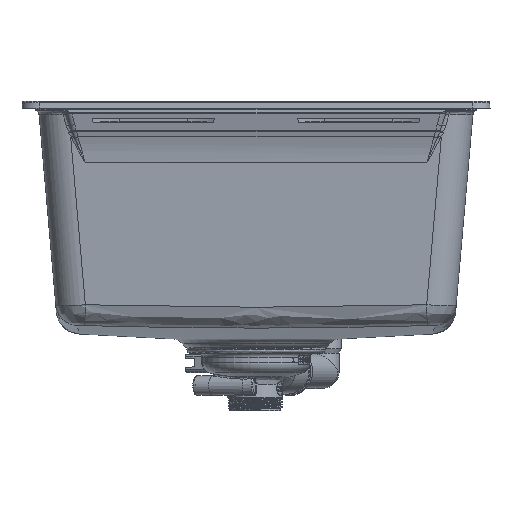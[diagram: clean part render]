
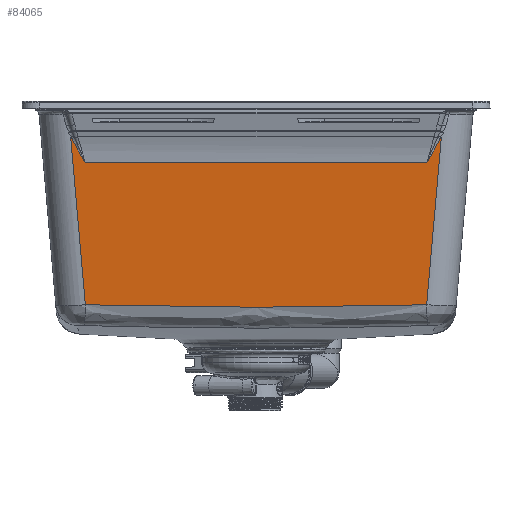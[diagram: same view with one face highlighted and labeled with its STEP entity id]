
A CAD part, left-side view. The second image highlights one B-rep face of the part: STEP entity #84065.
In plain terms, the highlighted planar face has unit normal (-0.996, 0, -0.087).
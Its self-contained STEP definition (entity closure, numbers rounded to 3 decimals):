
#1989=ELLIPSE('',#89532,41.287,9.);
#1990=ELLIPSE('',#89542,41.287,9.);
#2263=B_SPLINE_CURVE_WITH_KNOTS('',3,(#117610,#117611,#117612,#117613,#117614,
#117615),.UNSPECIFIED.,.F.,.F.,(4,2,4),(-2.388,-2.383,
0.),.UNSPECIFIED.);
#2277=B_SPLINE_CURVE_WITH_KNOTS('',3,(#117947,#117948,#117949,#117950,#117951,
#117952),.UNSPECIFIED.,.F.,.F.,(4,2,4),(-2.383,0.,0.004),
 .UNSPECIFIED.);
#2292=B_SPLINE_CURVE_WITH_KNOTS('',3,(#118635,#118636,#118637,#118638,#118639,
#118640),.UNSPECIFIED.,.F.,.F.,(4,1,1,4),(0.,12.818,21.363,
29.908),.UNSPECIFIED.);
#5237=PLANE('',#89608);
#7961=FACE_OUTER_BOUND('',#12873,.T.);
#12873=EDGE_LOOP('',(#57867,#57868,#57869,#57870,#57871,#57872,#57873,#57874));
#18072=LINE('',#118080,#25703);
#18088=LINE('',#118633,#25719);
#18089=LINE('',#118641,#25720);
#25703=VECTOR('',#96459,10.);
#25719=VECTOR('',#96569,10.);
#25720=VECTOR('',#96570,10.);
#35888=VERTEX_POINT('',#117600);
#35890=VERTEX_POINT('',#117603);
#35891=VERTEX_POINT('',#117632);
#35905=VERTEX_POINT('',#117915);
#35906=VERTEX_POINT('',#117917);
#35908=VERTEX_POINT('',#117946);
#35941=VERTEX_POINT('',#118632);
#35942=VERTEX_POINT('',#118634);
#44405=EDGE_CURVE('',#35890,#35888,#2263,.T.);
#44408=EDGE_CURVE('',#35888,#35891,#1989,.T.);
#44431=EDGE_CURVE('',#35905,#35906,#1990,.T.);
#44434=EDGE_CURVE('',#35906,#35908,#2277,.T.);
#44452=EDGE_CURVE('',#35908,#35890,#18072,.T.);
#44512=EDGE_CURVE('',#35905,#35941,#18088,.T.);
#44513=EDGE_CURVE('',#35942,#35941,#2292,.T.);
#44514=EDGE_CURVE('',#35891,#35942,#18089,.T.);
#57867=ORIENTED_EDGE('',*,*,#44405,.F.);
#57868=ORIENTED_EDGE('',*,*,#44452,.F.);
#57869=ORIENTED_EDGE('',*,*,#44434,.F.);
#57870=ORIENTED_EDGE('',*,*,#44431,.F.);
#57871=ORIENTED_EDGE('',*,*,#44512,.T.);
#57872=ORIENTED_EDGE('',*,*,#44513,.F.);
#57873=ORIENTED_EDGE('',*,*,#44514,.F.);
#57874=ORIENTED_EDGE('',*,*,#44408,.F.);
#84065=ADVANCED_FACE('',(#7961),#5237,.T.);
#89532=AXIS2_PLACEMENT_3D('',#117636,#96395,#96396);
#89542=AXIS2_PLACEMENT_3D('',#117918,#96415,#96416);
#89608=AXIS2_PLACEMENT_3D('',#118631,#96567,#96568);
#96395=DIRECTION('center_axis',(-0.996,0.,
-0.087));
#96396=DIRECTION('ref_axis',(0.084,0.253,-0.964));
#96415=DIRECTION('center_axis',(-0.996,0.,
-0.087));
#96416=DIRECTION('ref_axis',(0.084,-0.253,-0.964));
#96459=DIRECTION('',(0.,-1.,0.));
#96567=DIRECTION('center_axis',(-0.996,0.,
-0.087));
#96568=DIRECTION('ref_axis',(0.,1.,0.));
#96569=DIRECTION('',(0.087,-0.087,-0.992));
#96570=DIRECTION('',(0.087,0.087,-0.992));
#117600=CARTESIAN_POINT('',(-238.147,-161.665,-32.875));
#117603=CARTESIAN_POINT('',(-236.345,-149.721,-53.468));
#117610=CARTESIAN_POINT('Ctrl Pts',(-236.345,-149.721,
-53.468));
#117611=CARTESIAN_POINT('Ctrl Pts',(-236.346,-149.729,
-53.456));
#117612=CARTESIAN_POINT('Ctrl Pts',(-236.347,-149.736,
-53.444));
#117613=CARTESIAN_POINT('Ctrl Pts',(-236.939,-153.878,
-46.674));
#117614=CARTESIAN_POINT('Ctrl Pts',(-237.532,-158.016,
-39.906));
#117615=CARTESIAN_POINT('Ctrl Pts',(-238.147,-161.665,
-32.875));
#117632=CARTESIAN_POINT('',(-238.268,-162.367,-31.485));
#117636=CARTESIAN_POINT('Origin',(-240.785,-163.11,-2.716));
#117915=CARTESIAN_POINT('',(-238.268,162.367,-31.485));
#117917=CARTESIAN_POINT('',(-238.147,161.665,-32.875));
#117918=CARTESIAN_POINT('Origin',(-240.785,163.11,-2.716));
#117946=CARTESIAN_POINT('',(-236.345,149.721,-53.468));
#117947=CARTESIAN_POINT('Ctrl Pts',(-238.147,161.665,
-32.875));
#117948=CARTESIAN_POINT('Ctrl Pts',(-237.532,158.016,
-39.906));
#117949=CARTESIAN_POINT('Ctrl Pts',(-236.939,153.879,
-46.674));
#117950=CARTESIAN_POINT('Ctrl Pts',(-236.347,149.736,
-53.444));
#117951=CARTESIAN_POINT('Ctrl Pts',(-236.346,149.729,
-53.456));
#117952=CARTESIAN_POINT('Ctrl Pts',(-236.345,149.721,
-53.468));
#118080=CARTESIAN_POINT('',(-236.345,-92.5,-53.468));
#118631=CARTESIAN_POINT('Origin',(-240.977,-185.,-0.523));
#118632=CARTESIAN_POINT('',(-225.42,149.519,-178.343));
#118633=CARTESIAN_POINT('',(-239.733,163.832,-14.747));
#118634=CARTESIAN_POINT('',(-225.42,-149.519,-178.343));
#118635=CARTESIAN_POINT('Ctrl Pts',(-225.42,-149.519,
-178.343));
#118636=CARTESIAN_POINT('Ctrl Pts',(-225.32,-106.809,
-179.483));
#118637=CARTESIAN_POINT('Ctrl Pts',(-225.208,-35.607,
-180.766));
#118638=CARTESIAN_POINT('Ctrl Pts',(-225.249,64.09,-180.302));
#118639=CARTESIAN_POINT('Ctrl Pts',(-225.353,121.045,
-179.103));
#118640=CARTESIAN_POINT('Ctrl Pts',(-225.42,149.519,
-178.343));
#118641=CARTESIAN_POINT('',(-239.62,-163.719,-16.04));
